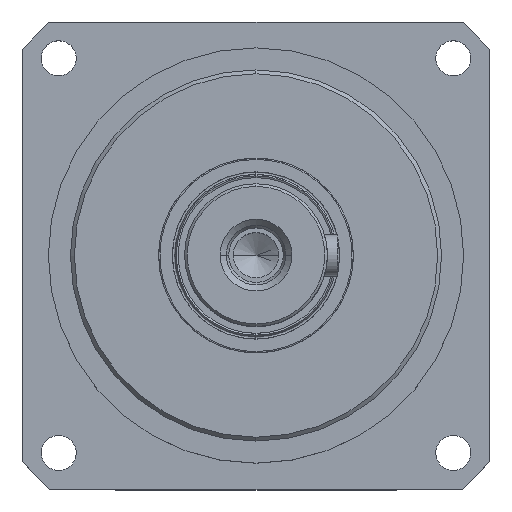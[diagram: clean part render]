
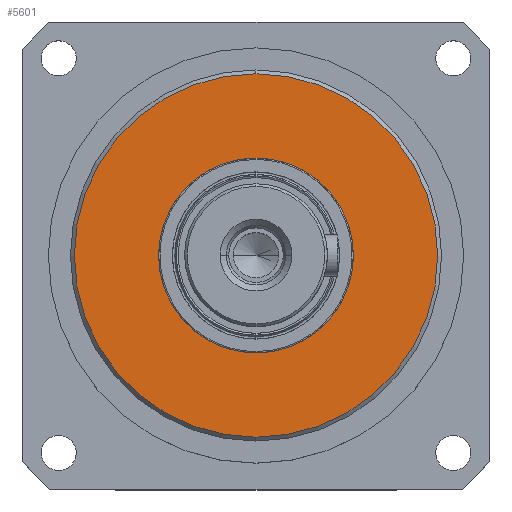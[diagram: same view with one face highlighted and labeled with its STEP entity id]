
A CAD part, top view. The second image highlights one B-rep face of the part: STEP entity #5601.
In plain terms, the highlighted planar face has unit normal (0, 0, 1).
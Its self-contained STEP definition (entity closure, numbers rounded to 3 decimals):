
#1352 = EDGE_LOOP ( 'NONE', ( #7714, #37287 ) ) ;
#1417 = DIRECTION ( 'NONE',  ( -1., 0., 0. ) ) ;
#1820 = AXIS2_PLACEMENT_3D ( 'NONE', #2526, #24487, #5679 ) ;
#2121 = DIRECTION ( 'NONE',  ( 1., 0., 0. ) ) ;
#2526 = CARTESIAN_POINT ( 'NONE',  ( 0., 0., 0. ) ) ;
#2677 = AXIS2_PLACEMENT_3D ( 'NONE', #39531, #20889, #2121 ) ;
#5601 = ADVANCED_FACE ( 'b?', ( #30337, #7301 ), #17052, .F. ) ;
#5679 = DIRECTION ( 'NONE',  ( 0., 1., 0. ) ) ;
#6285 = CIRCLE ( 'NONE', #1820, 70. ) ;
#7301 = FACE_BOUND ( 'NONE', #10539, .T. ) ;
#7478 = CARTESIAN_POINT ( 'NONE',  ( 0., 70., 0. ) ) ;
#7714 = ORIENTED_EDGE ( 'NONE', *, *, #16731, .F. ) ;
#9530 = CARTESIAN_POINT ( 'NONE',  ( 0., 0., 0. ) ) ;
#10539 = EDGE_LOOP ( 'NONE', ( #28742, #17221 ) ) ;
#11172 = CIRCLE ( 'NONE', #2677, 37.5 ) ;
#12185 = VERTEX_POINT ( 'NONE', #16285 ) ;
#12662 = DIRECTION ( 'NONE',  ( 1., 0., 0. ) ) ;
#15985 = VERTEX_POINT ( 'NONE', #39301 ) ;
#16285 = CARTESIAN_POINT ( 'NONE',  ( 0., -70., 0. ) ) ;
#16731 = EDGE_CURVE ( 'NONE', #15985, #12185, #6285, .T. ) ;
#17052 = PLANE ( 'NONE',  #17986 ) ;
#17221 = ORIENTED_EDGE ( 'NONE', *, *, #38638, .F. ) ;
#17611 = DIRECTION ( 'NONE',  ( 0., 0., -1. ) ) ;
#17986 = AXIS2_PLACEMENT_3D ( 'NONE', #7478, #20207, #1417 ) ;
#18250 = CIRCLE ( 'NONE', #23732, 37.5 ) ;
#20207 = DIRECTION ( 'NONE',  ( 0., 0., -1. ) ) ;
#20746 = EDGE_CURVE ( 'NONE', #36416, #24296, #18250, .T. ) ;
#20889 = DIRECTION ( 'NONE',  ( 0., 0., 1. ) ) ;
#23732 = AXIS2_PLACEMENT_3D ( 'NONE', #9530, #31476, #12662 ) ;
#24296 = VERTEX_POINT ( 'NONE', #36115 ) ;
#24487 = DIRECTION ( 'NONE',  ( 0., 0., -1. ) ) ;
#28742 = ORIENTED_EDGE ( 'NONE', *, *, #20746, .F. ) ;
#30337 = FACE_OUTER_BOUND ( 'NONE', #1352, .T. ) ;
#31476 = DIRECTION ( 'NONE',  ( 0., 0., 1. ) ) ;
#32114 = EDGE_CURVE ( 'NONE', #12185, #15985, #36446, .T. ) ;
#32259 = AXIS2_PLACEMENT_3D ( 'NONE', #36342, #17611, #39404 ) ;
#34114 = CARTESIAN_POINT ( 'NONE',  ( 37.5, 0., 0. ) ) ;
#36115 = CARTESIAN_POINT ( 'NONE',  ( -37.5, 0., 0. ) ) ;
#36342 = CARTESIAN_POINT ( 'NONE',  ( 0., 0., 0. ) ) ;
#36416 = VERTEX_POINT ( 'NONE', #34114 ) ;
#36446 = CIRCLE ( 'NONE', #32259, 70. ) ;
#37287 = ORIENTED_EDGE ( 'NONE', *, *, #32114, .F. ) ;
#38638 = EDGE_CURVE ( 'NONE', #24296, #36416, #11172, .T. ) ;
#39301 = CARTESIAN_POINT ( 'NONE',  ( 0., 70., 0. ) ) ;
#39404 = DIRECTION ( 'NONE',  ( 0., 1., 0. ) ) ;
#39531 = CARTESIAN_POINT ( 'NONE',  ( 0., 0., 0. ) ) ;
